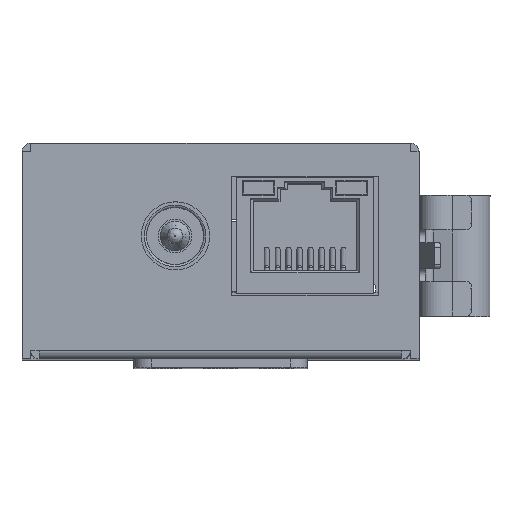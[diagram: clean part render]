
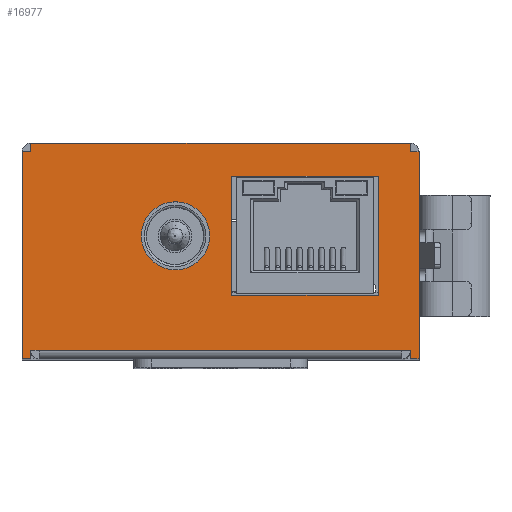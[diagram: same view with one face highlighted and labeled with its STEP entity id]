
A CAD part, top view. The second image highlights one B-rep face of the part: STEP entity #16977.
In plain terms, the highlighted planar face has unit normal (0, 0, 1).
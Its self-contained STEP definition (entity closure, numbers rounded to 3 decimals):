
#528=FACE_BOUND('',#3114,.T.);
#529=FACE_BOUND('',#3115,.T.);
#962=PLANE('',#18590);
#2058=FACE_OUTER_BOUND('',#3113,.T.);
#3113=EDGE_LOOP('',(#14714,#14715,#14716,#14717,#14718,#14719,#14720,#14721,
#14722,#14723,#14724,#14725,#14726,#14727,#14728,#14729,#14730,#14731));
#3114=EDGE_LOOP('',(#14732,#14733,#14734,#14735));
#3115=EDGE_LOOP('',(#14736));
#4218=LINE('',#31491,#5804);
#4219=LINE('',#31493,#5805);
#4220=LINE('',#31495,#5806);
#4221=LINE('',#31498,#5807);
#4222=LINE('',#31502,#5808);
#4223=LINE('',#31504,#5809);
#4224=LINE('',#31506,#5810);
#4225=LINE('',#31509,#5811);
#4289=LINE('',#31699,#5875);
#4324=LINE('',#31793,#5910);
#4335=LINE('',#31818,#5921);
#4341=LINE('',#31828,#5927);
#4349=LINE('',#31849,#5935);
#4386=LINE('',#32352,#5972);
#4425=LINE('',#33053,#6011);
#4465=LINE('',#33370,#6051);
#4467=LINE('',#33374,#6053);
#4469=LINE('',#33378,#6055);
#4471=LINE('',#33381,#6057);
#4502=LINE('',#33473,#6088);
#4503=LINE('',#33477,#6089);
#4504=LINE('',#33480,#6090);
#5804=VECTOR('',#21461,10.);
#5805=VECTOR('',#21462,10.);
#5806=VECTOR('',#21463,10.);
#5807=VECTOR('',#21466,10.);
#5808=VECTOR('',#21469,10.);
#5809=VECTOR('',#21470,0.365);
#5810=VECTOR('',#21471,10.);
#5811=VECTOR('',#21474,10.);
#5875=VECTOR('',#21608,0.365);
#5910=VECTOR('',#21711,10.);
#5921=VECTOR('',#21732,0.365);
#5927=VECTOR('',#21742,10.);
#5935=VECTOR('',#21772,10.);
#5972=VECTOR('',#21875,0.365);
#6011=VECTOR('',#21998,10.);
#6051=VECTOR('',#22114,10.);
#6053=VECTOR('',#22118,10.);
#6055=VECTOR('',#22122,10.);
#6057=VECTOR('',#22126,10.);
#6088=VECTOR('',#22245,10.);
#6089=VECTOR('',#22252,10.);
#6090=VECTOR('',#22257,10.);
#7029=CIRCLE('',#18541,3.95);
#8054=VERTEX_POINT('',#31489);
#8055=VERTEX_POINT('',#31490);
#8056=VERTEX_POINT('',#31492);
#8057=VERTEX_POINT('',#31494);
#8058=VERTEX_POINT('',#31496);
#8059=VERTEX_POINT('',#31500);
#8060=VERTEX_POINT('',#31501);
#8061=VERTEX_POINT('',#31503);
#8062=VERTEX_POINT('',#31505);
#8063=VERTEX_POINT('',#31507);
#8153=VERTEX_POINT('',#31696);
#8154=VERTEX_POINT('',#31698);
#8179=VERTEX_POINT('',#31792);
#8187=VERTEX_POINT('',#31815);
#8188=VERTEX_POINT('',#31817);
#8190=VERTEX_POINT('',#31826);
#8319=VERTEX_POINT('',#33367);
#8320=VERTEX_POINT('',#33369);
#8321=VERTEX_POINT('',#33373);
#8322=VERTEX_POINT('',#33377);
#8323=VERTEX_POINT('',#33383);
#8338=VERTEX_POINT('',#33466);
#8339=VERTEX_POINT('',#33471);
#10112=EDGE_CURVE('',#8054,#8055,#4218,.T.);
#10113=EDGE_CURVE('',#8056,#8054,#4219,.T.);
#10114=EDGE_CURVE('',#8057,#8056,#4220,.T.);
#10116=EDGE_CURVE('',#8055,#8058,#4221,.T.);
#10117=EDGE_CURVE('',#8059,#8060,#4222,.T.);
#10118=EDGE_CURVE('',#8061,#8059,#4223,.T.);
#10119=EDGE_CURVE('',#8062,#8061,#4224,.T.);
#10121=EDGE_CURVE('',#8060,#8063,#4225,.T.);
#10214=EDGE_CURVE('',#8154,#8153,#4289,.T.);
#10263=EDGE_CURVE('',#8154,#8179,#4324,.T.);
#10276=EDGE_CURVE('',#8187,#8188,#4335,.T.);
#10282=EDGE_CURVE('',#8187,#8190,#4341,.T.);
#10295=EDGE_CURVE('',#8057,#8063,#4349,.T.);
#10371=EDGE_CURVE('',#8062,#8190,#4386,.T.);
#10451=EDGE_CURVE('',#8179,#8058,#4425,.T.);
#10504=EDGE_CURVE('',#8320,#8319,#4465,.T.);
#10506=EDGE_CURVE('',#8321,#8320,#4467,.T.);
#10508=EDGE_CURVE('',#8322,#8321,#4469,.T.);
#10510=EDGE_CURVE('',#8319,#8322,#4471,.T.);
#10511=EDGE_CURVE('',#8323,#8323,#7029,.T.);
#10556=EDGE_CURVE('',#8339,#8188,#4502,.T.);
#10558=EDGE_CURVE('',#8153,#8338,#4503,.T.);
#10560=EDGE_CURVE('',#8338,#8339,#4504,.T.);
#14714=ORIENTED_EDGE('',*,*,#10558,.T.);
#14715=ORIENTED_EDGE('',*,*,#10560,.T.);
#14716=ORIENTED_EDGE('',*,*,#10556,.T.);
#14717=ORIENTED_EDGE('',*,*,#10276,.F.);
#14718=ORIENTED_EDGE('',*,*,#10282,.T.);
#14719=ORIENTED_EDGE('',*,*,#10371,.F.);
#14720=ORIENTED_EDGE('',*,*,#10119,.T.);
#14721=ORIENTED_EDGE('',*,*,#10118,.T.);
#14722=ORIENTED_EDGE('',*,*,#10117,.T.);
#14723=ORIENTED_EDGE('',*,*,#10121,.T.);
#14724=ORIENTED_EDGE('',*,*,#10295,.F.);
#14725=ORIENTED_EDGE('',*,*,#10114,.T.);
#14726=ORIENTED_EDGE('',*,*,#10113,.T.);
#14727=ORIENTED_EDGE('',*,*,#10112,.T.);
#14728=ORIENTED_EDGE('',*,*,#10116,.T.);
#14729=ORIENTED_EDGE('',*,*,#10451,.F.);
#14730=ORIENTED_EDGE('',*,*,#10263,.F.);
#14731=ORIENTED_EDGE('',*,*,#10214,.T.);
#14732=ORIENTED_EDGE('',*,*,#10508,.T.);
#14733=ORIENTED_EDGE('',*,*,#10506,.T.);
#14734=ORIENTED_EDGE('',*,*,#10504,.T.);
#14735=ORIENTED_EDGE('',*,*,#10510,.T.);
#14736=ORIENTED_EDGE('',*,*,#10511,.T.);
#16977=ADVANCED_FACE('',(#2058,#528,#529),#962,.T.);
#18541=AXIS2_PLACEMENT_3D('',#33384,#22129,#22130);
#18590=AXIS2_PLACEMENT_3D('',#33483,#22261,#22262);
#21461=DIRECTION('',(0.,-1.,0.));
#21462=DIRECTION('',(-1.,0.,0.));
#21463=DIRECTION('',(0.,-1.,0.));
#21466=DIRECTION('',(-1.,0.,0.));
#21469=DIRECTION('',(-1.,0.,0.));
#21470=DIRECTION('',(0.,1.,0.));
#21471=DIRECTION('',(-1.,0.,0.));
#21474=DIRECTION('',(0.,1.,0.));
#21608=DIRECTION('',(0.,1.,0.));
#21711=DIRECTION('',(-1.,0.,0.));
#21732=DIRECTION('',(0.,1.,0.));
#21742=DIRECTION('',(1.,0.,0.));
#21772=DIRECTION('',(1.,0.,0.));
#21875=DIRECTION('',(0.,-1.,0.));
#21998=DIRECTION('',(0.,1.,0.));
#22114=DIRECTION('',(-1.,0.,0.));
#22118=DIRECTION('',(0.,-1.,0.));
#22122=DIRECTION('',(1.,0.,0.));
#22126=DIRECTION('',(0.,1.,0.));
#22129=DIRECTION('center_axis',(0.,0.,
-1.));
#22130=DIRECTION('ref_axis',(1.,0.,0.));
#22245=DIRECTION('',(1.,0.,0.));
#22252=DIRECTION('',(1.,0.,0.));
#22257=DIRECTION('',(1.,0.,0.));
#22261=DIRECTION('center_axis',(0.,0.,
1.));
#22262=DIRECTION('ref_axis',(0.,-1.,0.));
#31489=CARTESIAN_POINT('',(-22.,18.,1.12));
#31490=CARTESIAN_POINT('',(-22.,17.99,1.12));
#31491=CARTESIAN_POINT('',(-22.,-4.99,1.12));
#31492=CARTESIAN_POINT('',(-21.99,18.,1.12));
#31493=CARTESIAN_POINT('',(-22.,18.,1.12));
#31494=CARTESIAN_POINT('',(-21.99,19.,1.12));
#31495=CARTESIAN_POINT('',(-21.99,18.,1.12));
#31496=CARTESIAN_POINT('',(-23.,17.99,1.12));
#31498=CARTESIAN_POINT('',(-22.178,17.99,1.12));
#31500=CARTESIAN_POINT('',(22.,18.,1.12));
#31501=CARTESIAN_POINT('',(21.99,18.,1.12));
#31502=CARTESIAN_POINT('',(-22.,18.,1.12));
#31503=CARTESIAN_POINT('',(22.,17.99,1.12));
#31504=CARTESIAN_POINT('',(22.,-6.137,1.12));
#31505=CARTESIAN_POINT('',(23.,17.99,1.12));
#31506=CARTESIAN_POINT('',(22.178,17.99,1.12));
#31507=CARTESIAN_POINT('',(21.99,19.,1.12));
#31509=CARTESIAN_POINT('',(21.99,18.,1.12));
#31696=CARTESIAN_POINT('',(-22.,-4.99,1.12));
#31698=CARTESIAN_POINT('',(-22.,-6.,1.12));
#31699=CARTESIAN_POINT('',(-22.,19.137,1.12));
#31792=CARTESIAN_POINT('',(-23.,-6.,1.12));
#31793=CARTESIAN_POINT('',(-22.,-6.,1.12));
#31815=CARTESIAN_POINT('',(22.,-6.,1.12));
#31817=CARTESIAN_POINT('',(22.,-4.99,1.12));
#31818=CARTESIAN_POINT('',(22.,19.137,1.12));
#31826=CARTESIAN_POINT('',(23.,-6.,1.12));
#31828=CARTESIAN_POINT('',(22.,-6.,1.12));
#31849=CARTESIAN_POINT('',(22.,19.,1.12));
#32352=CARTESIAN_POINT('',(23.,19.137,1.12));
#33053=CARTESIAN_POINT('',(-23.,17.99,1.12));
#33367=CARTESIAN_POINT('',(1.28,1.35,1.12));
#33369=CARTESIAN_POINT('',(18.28,1.35,1.12));
#33370=CARTESIAN_POINT('',(9.14,1.35,1.12));
#33373=CARTESIAN_POINT('',(18.28,15.15,1.12));
#33374=CARTESIAN_POINT('',(18.28,10.684,1.12));
#33377=CARTESIAN_POINT('',(1.28,15.15,1.12));
#33378=CARTESIAN_POINT('',(0.64,15.15,1.12));
#33381=CARTESIAN_POINT('',(1.28,3.784,1.12));
#33383=CARTESIAN_POINT('',(-9.17,8.25,1.12));
#33384=CARTESIAN_POINT('Origin',(-5.22,8.25,1.12));
#33466=CARTESIAN_POINT('',(-20.99,-4.99,1.12));
#33471=CARTESIAN_POINT('',(20.99,-4.99,1.12));
#33473=CARTESIAN_POINT('',(0.,-4.99,1.12));
#33477=CARTESIAN_POINT('',(0.,-4.99,1.12));
#33480=CARTESIAN_POINT('',(0.,-4.99,1.12));
#33483=CARTESIAN_POINT('Origin',(0.,6.218,
1.12));
